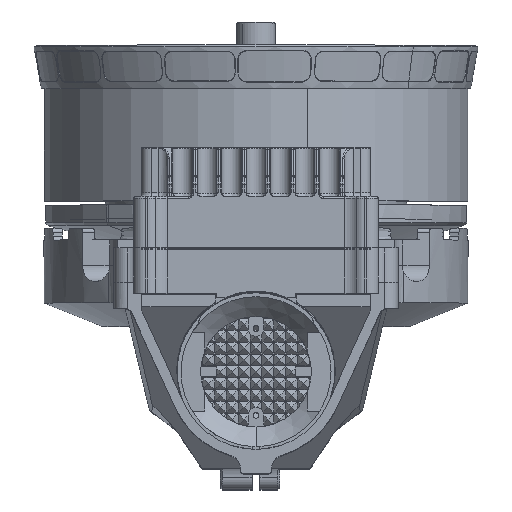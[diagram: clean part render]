
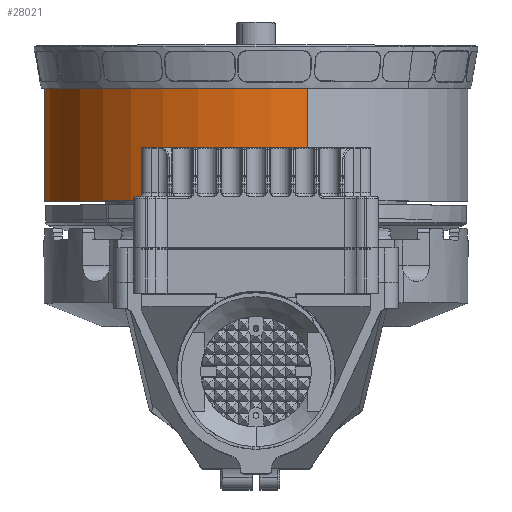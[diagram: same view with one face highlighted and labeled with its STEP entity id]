
A CAD part, top view. The second image highlights one B-rep face of the part: STEP entity #28021.
In plain terms, the highlighted cylindrical face has radius 53.75 mm (diameter 107.5 mm), a partial arc.
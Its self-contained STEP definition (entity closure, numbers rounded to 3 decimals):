
#11016 = DIRECTION ( 'NONE',  ( 0., -1., 0. ) ) ;
#12725 = DIRECTION ( 'NONE',  ( -0.242, 0., -0.97 ) ) ;
#22889 = ORIENTED_EDGE ( 'NONE', *, *, #162716, .F. ) ;
#23351 = CARTESIAN_POINT ( 'NONE',  ( 0., 71.6, 45. ) ) ;
#26540 = CIRCLE ( 'NONE', #203149, 53.75 ) ;
#27495 = CARTESIAN_POINT ( 'NONE',  ( 0., 43.1, 45. ) ) ;
#28021 = ADVANCED_FACE ( 'NONE', ( #135031 ), #225606, .T. ) ;
#48011 = CARTESIAN_POINT ( 'NONE',  ( 0., 43.1, 45. ) ) ;
#48447 = CARTESIAN_POINT ( 'NONE',  ( -13.014, 43.1, -7.151 ) ) ;
#54250 = AXIS2_PLACEMENT_3D ( 'NONE', #48011, #173675, #12725 ) ;
#60084 = ORIENTED_EDGE ( 'NONE', *, *, #114981, .T. ) ;
#74288 = VERTEX_POINT ( 'NONE', #48447 ) ;
#74724 = LINE ( 'NONE', #178137, #111824 ) ;
#91813 = CARTESIAN_POINT ( 'NONE',  ( 13.014, 71.6, 97.151 ) ) ;
#111824 = VECTOR ( 'NONE', #142903, 1000. ) ;
#114557 = DIRECTION ( 'NONE',  ( -0.242, 0., -0.97 ) ) ;
#114981 = EDGE_CURVE ( 'NONE', #160621, #74288, #74724, .T. ) ;
#130385 = DIRECTION ( 'NONE',  ( 0., -1., 0. ) ) ;
#132757 = VERTEX_POINT ( 'NONE', #190947 ) ;
#135031 = FACE_OUTER_BOUND ( 'NONE', #221582, .T. ) ;
#139544 = EDGE_CURVE ( 'NONE', #215515, #132757, #174621, .T. ) ;
#142854 = ORIENTED_EDGE ( 'NONE', *, *, #139544, .F. ) ;
#142903 = DIRECTION ( 'NONE',  ( 0., -1., 0. ) ) ;
#155196 = CARTESIAN_POINT ( 'NONE',  ( -13.014, 71.6, -7.151 ) ) ;
#157054 = CARTESIAN_POINT ( 'NONE',  ( 13.014, 43.1, 97.151 ) ) ;
#160621 = VERTEX_POINT ( 'NONE', #155196 ) ;
#162716 = EDGE_CURVE ( 'NONE', #132757, #74288, #200171, .T. ) ;
#173675 = DIRECTION ( 'NONE',  ( 0., -1., 0. ) ) ;
#174621 = LINE ( 'NONE', #157054, #188749 ) ;
#178137 = CARTESIAN_POINT ( 'NONE',  ( -13.014, 43.1, -7.151 ) ) ;
#185606 = DIRECTION ( 'NONE',  ( -0.242, 0., -0.97 ) ) ;
#188749 = VECTOR ( 'NONE', #192371, 1000. ) ;
#190947 = CARTESIAN_POINT ( 'NONE',  ( 13.014, 43.1, 97.151 ) ) ;
#192371 = DIRECTION ( 'NONE',  ( 0., -1., 0. ) ) ;
#198402 = EDGE_CURVE ( 'NONE', #215515, #160621, #26540, .T. ) ;
#200171 = CIRCLE ( 'NONE', #222719, 53.75 ) ;
#203149 = AXIS2_PLACEMENT_3D ( 'NONE', #23351, #130385, #185606 ) ;
#215515 = VERTEX_POINT ( 'NONE', #91813 ) ;
#221582 = EDGE_LOOP ( 'NONE', ( #142854, #224930, #60084, #22889 ) ) ;
#222719 = AXIS2_PLACEMENT_3D ( 'NONE', #27495, #11016, #114557 ) ;
#224930 = ORIENTED_EDGE ( 'NONE', *, *, #198402, .T. ) ;
#225606 = CYLINDRICAL_SURFACE ( 'NONE', #54250, 53.75 ) ;
